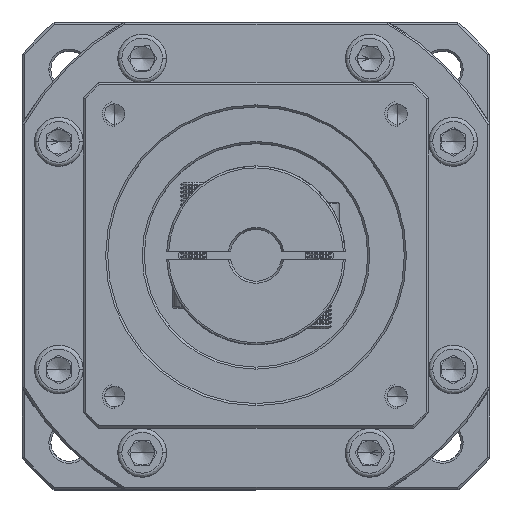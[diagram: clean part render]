
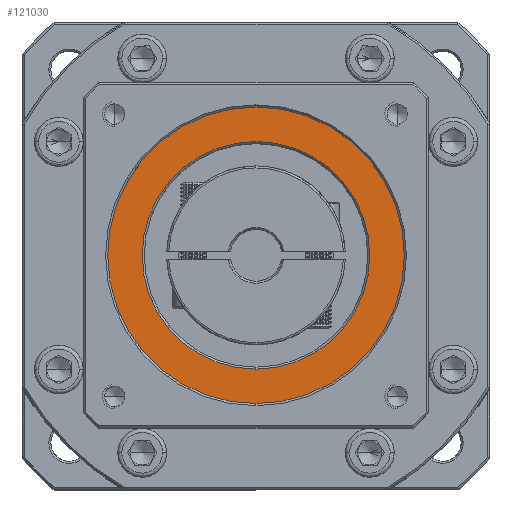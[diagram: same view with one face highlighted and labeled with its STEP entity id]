
A CAD part, top view. The second image highlights one B-rep face of the part: STEP entity #121030.
In plain terms, the highlighted planar face has unit normal (0, 0, 1).
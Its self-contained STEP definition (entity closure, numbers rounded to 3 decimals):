
#16973 = CARTESIAN_POINT ( 'NONE',  ( -52.482, 45.083, 265.002 ) ) ;
#19923 = EDGE_CURVE ( 'NONE', #49588, #51588, #100034, .T. ) ;
#25611 = ORIENTED_EDGE ( 'NONE', *, *, #48074, .T. ) ;
#36425 = EDGE_CURVE ( 'NONE', #51588, #49588, #90075, .T. ) ;
#37536 = DIRECTION ( 'NONE',  ( 0., 0., 1. ) ) ;
#38275 = DIRECTION ( 'NONE',  ( 0., 0., 1. ) ) ;
#38697 = ORIENTED_EDGE ( 'NONE', *, *, #36425, .T. ) ;
#42614 = AXIS2_PLACEMENT_3D ( 'NONE', #93447, #37536, #102884 ) ;
#43959 = CIRCLE ( 'NONE', #120036, 28. ) ;
#48074 = EDGE_CURVE ( 'NONE', #68176, #94664, #43959, .T. ) ;
#48628 = CARTESIAN_POINT ( 'NONE',  ( -52.482, 8.583, 265.002 ) ) ;
#48933 = ORIENTED_EDGE ( 'NONE', *, *, #63879, .T. ) ;
#49588 = VERTEX_POINT ( 'NONE', #83237 ) ;
#50590 = AXIS2_PLACEMENT_3D ( 'NONE', #108995, #53096, #118369 ) ;
#51588 = VERTEX_POINT ( 'NONE', #16973 ) ;
#52663 = DIRECTION ( 'NONE',  ( 0., 0., 1. ) ) ;
#53096 = DIRECTION ( 'NONE',  ( 0., 0., -1. ) ) ;
#53332 = CIRCLE ( 'NONE', #50590, 28. ) ;
#58035 = DIRECTION ( 'NONE',  ( 0., 1., 0. ) ) ;
#59961 = FACE_BOUND ( 'NONE', #61386, .T. ) ;
#61386 = EDGE_LOOP ( 'NONE', ( #25611, #48933 ) ) ;
#61984 = CARTESIAN_POINT ( 'NONE',  ( -52.482, -19.417, 265.002 ) ) ;
#63879 = EDGE_CURVE ( 'NONE', #94664, #68176, #53332, .T. ) ;
#65923 = ORIENTED_EDGE ( 'NONE', *, *, #19923, .T. ) ;
#68176 = VERTEX_POINT ( 'NONE', #84426 ) ;
#70401 = EDGE_LOOP ( 'NONE', ( #38697, #65923 ) ) ;
#80211 = AXIS2_PLACEMENT_3D ( 'NONE', #94180, #38275, #103626 ) ;
#83237 = CARTESIAN_POINT ( 'NONE',  ( -52.482, -27.917, 265.002 ) ) ;
#84426 = CARTESIAN_POINT ( 'NONE',  ( -52.482, 36.583, 265.002 ) ) ;
#84561 = AXIS2_PLACEMENT_3D ( 'NONE', #108580, #52663, #117953 ) ;
#84788 = FACE_OUTER_BOUND ( 'NONE', #70401, .T. ) ;
#90075 = CIRCLE ( 'NONE', #42614, 36.5 ) ;
#93447 = CARTESIAN_POINT ( 'NONE',  ( -52.482, 8.583, 265.002 ) ) ;
#94180 = CARTESIAN_POINT ( 'NONE',  ( -52.482, 8.583, 265.002 ) ) ;
#94664 = VERTEX_POINT ( 'NONE', #61984 ) ;
#100034 = CIRCLE ( 'NONE', #84561, 36.5 ) ;
#102884 = DIRECTION ( 'NONE',  ( 0., 1., 0. ) ) ;
#103230 = PLANE ( 'NONE',  #80211 ) ;
#103626 = DIRECTION ( 'NONE',  ( 0., 1., 0. ) ) ;
#108580 = CARTESIAN_POINT ( 'NONE',  ( -52.482, 8.583, 265.002 ) ) ;
#108995 = CARTESIAN_POINT ( 'NONE',  ( -52.482, 8.583, 265.002 ) ) ;
#113981 = DIRECTION ( 'NONE',  ( 0., 0., -1. ) ) ;
#117953 = DIRECTION ( 'NONE',  ( 0., 1., 0. ) ) ;
#118369 = DIRECTION ( 'NONE',  ( 0., 1., 0. ) ) ;
#120036 = AXIS2_PLACEMENT_3D ( 'NONE', #48628, #113981, #58035 ) ;
#121030 = ADVANCED_FACE ( 'NONE', ( #84788, #59961 ), #103230, .T. ) ;
